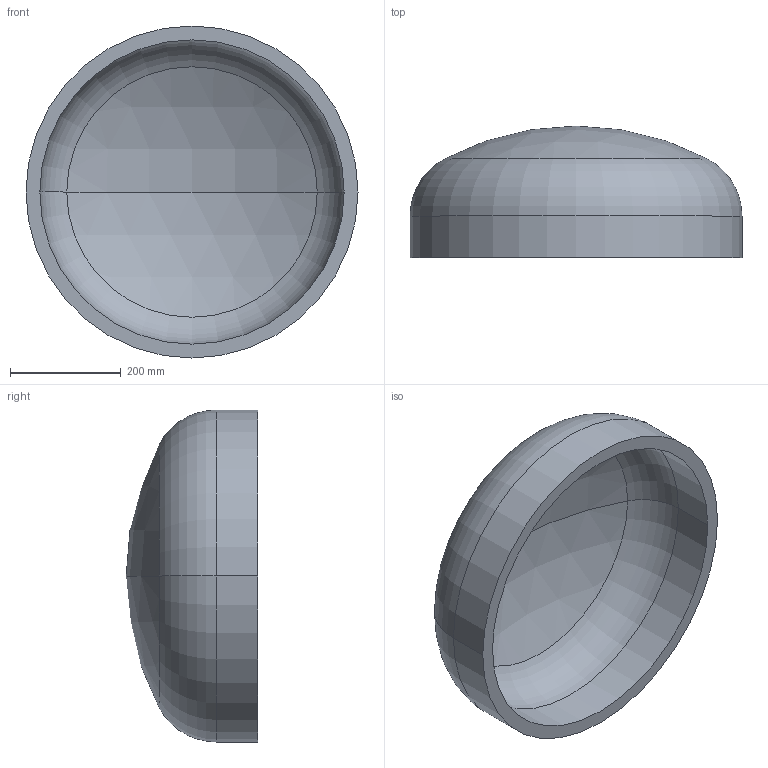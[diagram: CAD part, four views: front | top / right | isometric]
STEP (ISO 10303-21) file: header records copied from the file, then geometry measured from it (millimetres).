
FILE_DESCRIPTION (( 'STEP AP203' ), '1' );
FILE_NAME ('DIN 28013 Korbbogenform_-_Boden DIN 28013 - 600 x 75 - I - s=25.step', '2016-07-01T07:58:49', ( '' ), ( '' ), 'SwSTEP 2.0', 'SolidWorks 2013', '' );
FILE_SCHEMA (( 'CONFIG_CONTROL_DESIGN' ));
Length unit declared in the file: millimetre
Products named in the file (1): DIN 28013 Korbbogenform_-_Boden DIN 28013 - 600 x 75 - I - s=25
Bounding box: 600 x 237.87 x 600 mm (x, y, z)
Volume: 12654934.6 mm3; surface area: 1058863.9 mm2
Topology: 1 solids, 1 shells, 13 faces, 24 edges, 14 vertices
Faces by surface type: torus 4, cylinder 4, sphere 4, plane 1
Entity records: 407 total; most frequent: DIRECTION 72, CARTESIAN_POINT 52, ORIENTED_EDGE 48, AXIS2_PLACEMENT_3D 34, EDGE_CURVE 24, CIRCLE 20, VERTEX_POINT 14, EDGE_LOOP 14
